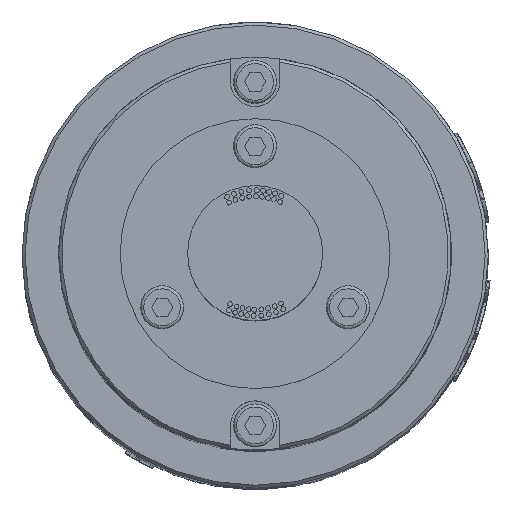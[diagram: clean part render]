
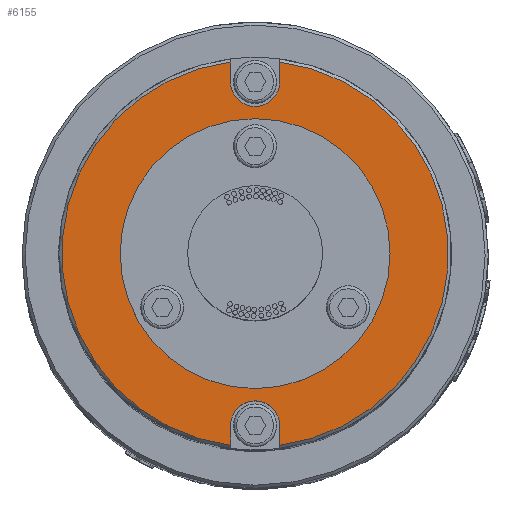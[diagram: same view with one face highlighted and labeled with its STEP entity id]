
A CAD part, top view. The second image highlights one B-rep face of the part: STEP entity #6155.
In plain terms, the highlighted planar face has unit normal (0, 0, 1).
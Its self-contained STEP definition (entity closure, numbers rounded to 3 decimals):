
#477=FACE_BOUND('',#10107,.T.);
#478=FACE_BOUND('',#10108,.T.);
#1601=CIRCLE('',#28018,4.);
#1604=CIRCLE('',#28025,4.);
#1607=CIRCLE('',#28030,31.5);
#1610=CIRCLE('',#28035,31.5);
#1611=CIRCLE('',#28037,22.);
#2745=LINE('',#44729,#4363);
#2747=LINE('',#44750,#4365);
#2753=LINE('',#44768,#4371);
#2755=LINE('',#44789,#4373);
#4363=VECTOR('',#31002,1.);
#4365=VECTOR('',#31006,1.);
#4371=VECTOR('',#31024,1.);
#4373=VECTOR('',#31028,1.);
#6155=ADVANCED_FACE('',(#477,#478),#7616,.T.);
#7616=PLANE('',#28038);
#10107=EDGE_LOOP('',(#14022,#14023,#14024,#14025,#14026,#14027,#14028,#14029));
#10108=EDGE_LOOP('',(#14030));
#14022=ORIENTED_EDGE('',*,*,#23571,.T.);
#14023=ORIENTED_EDGE('',*,*,#23546,.T.);
#14024=ORIENTED_EDGE('',*,*,#23555,.T.);
#14025=ORIENTED_EDGE('',*,*,#23550,.T.);
#14026=ORIENTED_EDGE('',*,*,#23574,.T.);
#14027=ORIENTED_EDGE('',*,*,#23559,.T.);
#14028=ORIENTED_EDGE('',*,*,#23568,.T.);
#14029=ORIENTED_EDGE('',*,*,#23563,.T.);
#14030=ORIENTED_EDGE('',*,*,#23575,.F.);
#20500=VERTEX_POINT('',#44728);
#20501=VERTEX_POINT('',#44730);
#20504=VERTEX_POINT('',#44749);
#20505=VERTEX_POINT('',#44751);
#20510=VERTEX_POINT('',#44767);
#20511=VERTEX_POINT('',#44769);
#20514=VERTEX_POINT('',#44788);
#20515=VERTEX_POINT('',#44790);
#20519=VERTEX_POINT('',#44813);
#23546=EDGE_CURVE('',#20501,#20500,#2745,.T.);
#23550=EDGE_CURVE('',#20505,#20504,#2747,.T.);
#23555=EDGE_CURVE('',#20500,#20505,#1601,.T.);
#23559=EDGE_CURVE('',#20511,#20510,#2753,.T.);
#23563=EDGE_CURVE('',#20515,#20514,#2755,.T.);
#23568=EDGE_CURVE('',#20510,#20515,#1604,.T.);
#23571=EDGE_CURVE('',#20514,#20501,#1607,.T.);
#23574=EDGE_CURVE('',#20504,#20511,#1610,.T.);
#23575=EDGE_CURVE('',#20519,#20519,#1611,.T.);
#28018=AXIS2_PLACEMENT_3D('',#44759,#31017,#31018);
#28025=AXIS2_PLACEMENT_3D('',#44798,#31039,#31040);
#28030=AXIS2_PLACEMENT_3D('',#44805,#31049,#31050);
#28035=AXIS2_PLACEMENT_3D('',#44810,#31059,#31060);
#28037=AXIS2_PLACEMENT_3D('',#44812,#31063,#31064);
#28038=AXIS2_PLACEMENT_3D('',#44814,#31065,#31066);
#31002=DIRECTION('',(0.,1.,0.));
#31006=DIRECTION('',(0.,-1.,0.));
#31017=DIRECTION('',(0.,0.,-1.));
#31018=DIRECTION('',(1.,0.,0.));
#31024=DIRECTION('',(0.,-1.,0.));
#31028=DIRECTION('',(0.,1.,0.));
#31039=DIRECTION('',(0.,0.,-1.));
#31040=DIRECTION('',(-1.,0.,0.));
#31049=DIRECTION('',(0.,0.,1.));
#31050=DIRECTION('',(1.,0.,0.));
#31059=DIRECTION('',(0.,0.,1.));
#31060=DIRECTION('',(1.,0.,0.));
#31063=DIRECTION('',(0.,0.,1.));
#31064=DIRECTION('',(1.,0.,0.));
#31065=DIRECTION('',(0.,0.,1.));
#31066=DIRECTION('',(1.,0.,0.));
#44728=CARTESIAN_POINT('',(-4.,-28.,303.));
#44729=CARTESIAN_POINT('',(-4.,-30.65,303.));
#44730=CARTESIAN_POINT('',(-4.,-31.245,303.));
#44749=CARTESIAN_POINT('',(4.,-31.245,303.));
#44750=CARTESIAN_POINT('',(4.,-30.65,303.));
#44751=CARTESIAN_POINT('',(4.,-28.,303.));
#44759=CARTESIAN_POINT('',(0.,-28.,303.));
#44767=CARTESIAN_POINT('',(4.,28.,303.));
#44768=CARTESIAN_POINT('',(4.,30.65,303.));
#44769=CARTESIAN_POINT('',(4.,31.245,303.));
#44788=CARTESIAN_POINT('',(-4.,31.245,303.));
#44789=CARTESIAN_POINT('',(-4.,30.65,303.));
#44790=CARTESIAN_POINT('',(-4.,28.,303.));
#44798=CARTESIAN_POINT('',(0.,28.,303.));
#44805=CARTESIAN_POINT('',(0.,0.,303.));
#44810=CARTESIAN_POINT('',(0.,0.,303.));
#44812=CARTESIAN_POINT('',(0.,0.,303.));
#44813=CARTESIAN_POINT('',(22.,0.,303.));
#44814=CARTESIAN_POINT('',(0.,0.,303.));
